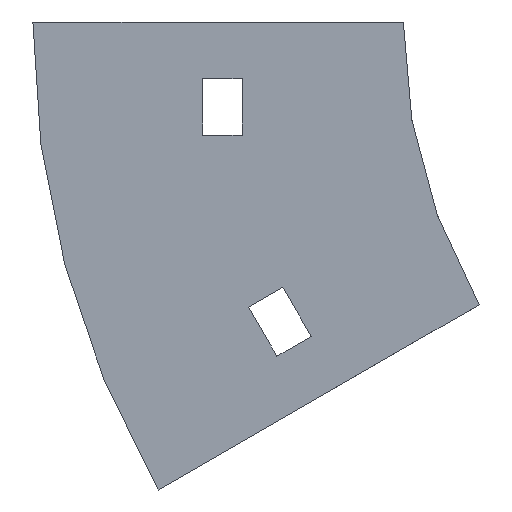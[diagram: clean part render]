
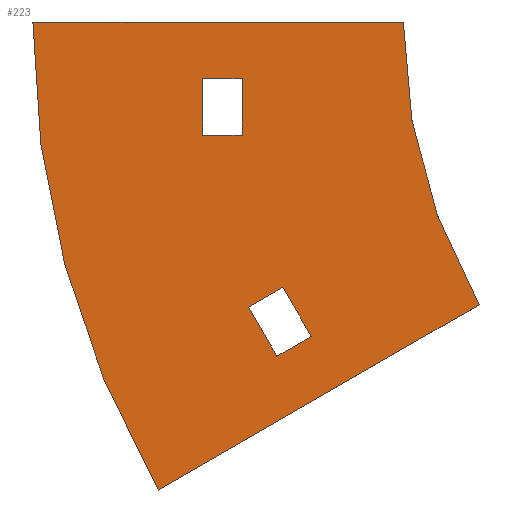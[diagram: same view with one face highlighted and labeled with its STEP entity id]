
A CAD part, left-side view. The second image highlights one B-rep face of the part: STEP entity #223.
In plain terms, the highlighted planar face has unit normal (-1, 0, 0).
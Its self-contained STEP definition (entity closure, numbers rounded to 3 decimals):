
#4 = VECTOR ( 'NONE', #695, 1000. ) ;
#22 = CARTESIAN_POINT ( 'NONE',  ( -102., 65.5, 0. ) ) ;
#28 = EDGE_LOOP ( 'NONE', ( #471, #199, #921, #798 ) ) ;
#35 = CARTESIAN_POINT ( 'NONE',  ( -102., 27.346, -50.429 ) ) ;
#51 = LINE ( 'NONE', #1023, #4 ) ;
#57 = DIRECTION ( 'NONE',  ( 0., -1., 0. ) ) ;
#62 = CARTESIAN_POINT ( 'NONE',  ( -102., 35.5, -10. ) ) ;
#73 = CARTESIAN_POINT ( 'NONE',  ( -102., 43.327, -82.75 ) ) ;
#76 = CARTESIAN_POINT ( 'NONE',  ( -102., 16.284, -55.59 ) ) ;
#108 = VERTEX_POINT ( 'NONE', #264 ) ;
#126 = CARTESIAN_POINT ( 'NONE',  ( -102., 28.5, -20. ) ) ;
#146 = DIRECTION ( 'NONE',  ( 1., 0., 0. ) ) ;
#148 = CARTESIAN_POINT ( 'NONE',  ( -102., 16.284, -55.59 ) ) ;
#152 = CARTESIAN_POINT ( 'NONE',  ( -102., -13.397, -50. ) ) ;
#173 = DIRECTION ( 'NONE',  ( 0., -0.5, -0.866 ) ) ;
#199 = ORIENTED_EDGE ( 'NONE', *, *, #627, .F. ) ;
#202 = CARTESIAN_POINT ( 'NONE',  ( -102., 35.5, -10. ) ) ;
#216 = PLANE ( 'NONE',  #281 ) ;
#223 = ADVANCED_FACE ( 'NONE', ( #753, #1002, #565 ), #216, .T. ) ;
#261 = VECTOR ( 'NONE', #776, 1000. ) ;
#264 = CARTESIAN_POINT ( 'NONE',  ( -102., 35.5, -20. ) ) ;
#281 = AXIS2_PLACEMENT_3D ( 'NONE', #1103, #915, #983 ) ;
#284 = VERTEX_POINT ( 'NONE', #73 ) ;
#286 = EDGE_CURVE ( 'NONE', #910, #976, #939, .T. ) ;
#298 = VECTOR ( 'NONE', #57, 1000. ) ;
#307 = CARTESIAN_POINT ( 'NONE',  ( -102., 65.5, 0. ) ) ;
#313 = ORIENTED_EDGE ( 'NONE', *, *, #480, .F. ) ;
#316 = VERTEX_POINT ( 'NONE', #152 ) ;
#317 = DIRECTION ( 'NONE',  ( 0., 0., -1. ) ) ;
#324 = LINE ( 'NONE', #307, #298 ) ;
#345 = VECTOR ( 'NONE', #454, 1000. ) ;
#354 = VECTOR ( 'NONE', #317, 1000. ) ;
#355 = CARTESIAN_POINT ( 'NONE',  ( -102., 35.5, -10. ) ) ;
#356 = DIRECTION ( 'NONE',  ( 0., 0., 1. ) ) ;
#376 = ORIENTED_EDGE ( 'NONE', *, *, #813, .T. ) ;
#415 = LINE ( 'NONE', #765, #800 ) ;
#420 = DIRECTION ( 'NONE',  ( 0., 0.866, -0.5 ) ) ;
#439 = LINE ( 'NONE', #355, #740 ) ;
#441 = DIRECTION ( 'NONE',  ( -1., 0., 0. ) ) ;
#446 = CARTESIAN_POINT ( 'NONE',  ( -102., 28.5, -10. ) ) ;
#449 = ORIENTED_EDGE ( 'NONE', *, *, #962, .T. ) ;
#454 = DIRECTION ( 'NONE',  ( 0., 1., 0. ) ) ;
#471 = ORIENTED_EDGE ( 'NONE', *, *, #787, .F. ) ;
#480 = EDGE_CURVE ( 'NONE', #521, #647, #51, .T. ) ;
#481 = VECTOR ( 'NONE', #173, 1000. ) ;
#488 = ORIENTED_EDGE ( 'NONE', *, *, #761, .F. ) ;
#498 = CARTESIAN_POINT ( 'NONE',  ( -102., 22.346, -59.09 ) ) ;
#508 = VERTEX_POINT ( 'NONE', #126 ) ;
#521 = VERTEX_POINT ( 'NONE', #741 ) ;
#527 = VECTOR ( 'NONE', #1128, 1000. ) ;
#531 = LINE ( 'NONE', #1064, #1105 ) ;
#565 = FACE_BOUND ( 'NONE', #809, .T. ) ;
#570 = VERTEX_POINT ( 'NONE', #498 ) ;
#572 = VERTEX_POINT ( 'NONE', #688 ) ;
#607 = LINE ( 'NONE', #778, #481 ) ;
#608 = EDGE_CURVE ( 'NONE', #976, #508, #947, .T. ) ;
#613 = DIRECTION ( 'NONE',  ( 0., -0.866, 0.5 ) ) ;
#616 = ORIENTED_EDGE ( 'NONE', *, *, #1042, .F. ) ;
#622 = DIRECTION ( 'NONE',  ( 0., 0., 1. ) ) ;
#627 = EDGE_CURVE ( 'NONE', #1006, #572, #324, .T. ) ;
#629 = ORIENTED_EDGE ( 'NONE', *, *, #286, .T. ) ;
#645 = VERTEX_POINT ( 'NONE', #148 ) ;
#646 = EDGE_CURVE ( 'NONE', #316, #284, #415, .T. ) ;
#647 = VERTEX_POINT ( 'NONE', #35 ) ;
#688 = CARTESIAN_POINT ( 'NONE',  ( -102., 0., 0. ) ) ;
#695 = DIRECTION ( 'NONE',  ( 0., 0.866, -0.5 ) ) ;
#714 = LINE ( 'NONE', #958, #345 ) ;
#734 = ORIENTED_EDGE ( 'NONE', *, *, #796, .F. ) ;
#740 = VECTOR ( 'NONE', #622, 1000. ) ;
#741 = CARTESIAN_POINT ( 'NONE',  ( -102., 21.284, -46.929 ) ) ;
#753 = FACE_BOUND ( 'NONE', #914, .T. ) ;
#761 = EDGE_CURVE ( 'NONE', #645, #521, #1048, .T. ) ;
#765 = CARTESIAN_POINT ( 'NONE',  ( -102., -13.397, -50. ) ) ;
#776 = DIRECTION ( 'NONE',  ( 0., 0.5, 0.866 ) ) ;
#778 = CARTESIAN_POINT ( 'NONE',  ( -102., 22.346, -59.09 ) ) ;
#787 = EDGE_CURVE ( 'NONE', #572, #316, #882, .T. ) ;
#789 = CARTESIAN_POINT ( 'NONE',  ( -102., -100., 0. ) ) ;
#796 = EDGE_CURVE ( 'NONE', #570, #645, #531, .T. ) ;
#798 = ORIENTED_EDGE ( 'NONE', *, *, #646, .F. ) ;
#800 = VECTOR ( 'NONE', #420, 1000. ) ;
#809 = EDGE_LOOP ( 'NONE', ( #488, #734, #616, #313 ) ) ;
#810 = CIRCLE ( 'NONE', #1146, 165.5 ) ;
#813 = EDGE_CURVE ( 'NONE', #508, #108, #714, .T. ) ;
#830 = AXIS2_PLACEMENT_3D ( 'NONE', #789, #441, #356 ) ;
#866 = DIRECTION ( 'NONE',  ( 0., 0., 1. ) ) ;
#882 = CIRCLE ( 'NONE', #830, 100. ) ;
#910 = VERTEX_POINT ( 'NONE', #202 ) ;
#914 = EDGE_LOOP ( 'NONE', ( #629, #1116, #376, #449 ) ) ;
#915 = DIRECTION ( 'NONE',  ( -1., 0., 0. ) ) ;
#921 = ORIENTED_EDGE ( 'NONE', *, *, #1126, .F. ) ;
#939 = LINE ( 'NONE', #62, #527 ) ;
#947 = LINE ( 'NONE', #1108, #354 ) ;
#958 = CARTESIAN_POINT ( 'NONE',  ( -102., 35.5, -20. ) ) ;
#962 = EDGE_CURVE ( 'NONE', #108, #910, #439, .T. ) ;
#976 = VERTEX_POINT ( 'NONE', #446 ) ;
#983 = DIRECTION ( 'NONE',  ( 0., 0., 1. ) ) ;
#1002 = FACE_OUTER_BOUND ( 'NONE', #28, .T. ) ;
#1006 = VERTEX_POINT ( 'NONE', #22 ) ;
#1023 = CARTESIAN_POINT ( 'NONE',  ( -102., 27.346, -50.429 ) ) ;
#1025 = CARTESIAN_POINT ( 'NONE',  ( -102., -100., 0. ) ) ;
#1042 = EDGE_CURVE ( 'NONE', #647, #570, #607, .T. ) ;
#1048 = LINE ( 'NONE', #76, #261 ) ;
#1064 = CARTESIAN_POINT ( 'NONE',  ( -102., 22.346, -59.09 ) ) ;
#1103 = CARTESIAN_POINT ( 'NONE',  ( -102., -100., 0. ) ) ;
#1105 = VECTOR ( 'NONE', #613, 1000. ) ;
#1108 = CARTESIAN_POINT ( 'NONE',  ( -102., 28.5, -10. ) ) ;
#1116 = ORIENTED_EDGE ( 'NONE', *, *, #608, .T. ) ;
#1126 = EDGE_CURVE ( 'NONE', #284, #1006, #810, .T. ) ;
#1128 = DIRECTION ( 'NONE',  ( 0., -1., 0. ) ) ;
#1146 = AXIS2_PLACEMENT_3D ( 'NONE', #1025, #146, #866 ) ;
